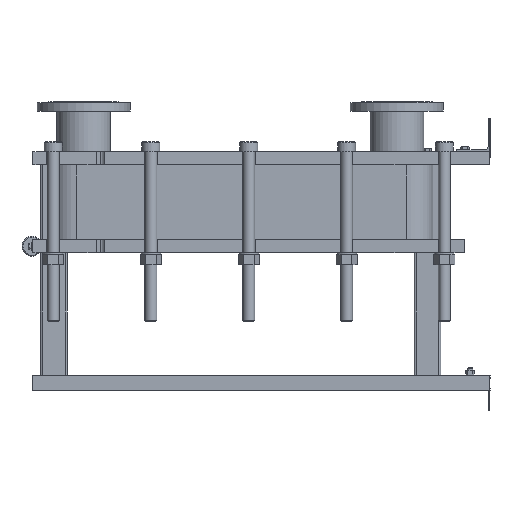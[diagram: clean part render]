
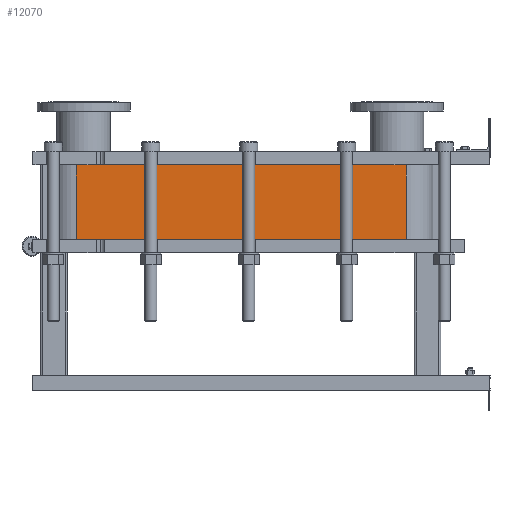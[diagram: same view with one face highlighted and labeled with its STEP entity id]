
A CAD part, left-side view. The second image highlights one B-rep face of the part: STEP entity #12070.
In plain terms, the highlighted planar face has unit normal (-1, 0, 0).
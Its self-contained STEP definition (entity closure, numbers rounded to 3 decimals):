
#1064=LINE('',#21140,#2164);
#1065=LINE('',#21144,#2165);
#1066=LINE('',#21146,#2166);
#1067=LINE('',#21147,#2167);
#2164=VECTOR('',#15790,10.);
#2165=VECTOR('',#15795,10.);
#2166=VECTOR('',#15796,10.);
#2167=VECTOR('',#15797,10.);
#3304=FACE_OUTER_BOUND('',#4091,.T.);
#4091=EDGE_LOOP('',(#9793,#9794,#9795,#9796));
#5677=VERTEX_POINT('',#21137);
#5678=VERTEX_POINT('',#21139);
#5679=VERTEX_POINT('',#21143);
#5680=VERTEX_POINT('',#21145);
#7118=EDGE_CURVE('',#5678,#5677,#1064,.T.);
#7120=EDGE_CURVE('',#5677,#5679,#1065,.T.);
#7121=EDGE_CURVE('',#5680,#5679,#1066,.T.);
#7122=EDGE_CURVE('',#5680,#5678,#1067,.T.);
#9793=ORIENTED_EDGE('',*,*,#7120,.T.);
#9794=ORIENTED_EDGE('',*,*,#7121,.F.);
#9795=ORIENTED_EDGE('',*,*,#7122,.T.);
#9796=ORIENTED_EDGE('',*,*,#7118,.T.);
#11441=PLANE('',#13191);
#12070=ADVANCED_FACE('',(#3304),#11441,.T.);
#13191=AXIS2_PLACEMENT_3D('',#21142,#15793,#15794);
#15790=DIRECTION('',(0.,0.,-1.));
#15793=DIRECTION('center_axis',(-1.,0.,0.));
#15794=DIRECTION('ref_axis',(0.,1.,0.));
#15795=DIRECTION('',(0.,-1.,0.));
#15796=DIRECTION('',(0.,0.,-1.));
#15797=DIRECTION('',(0.,1.,0.));
#21137=CARTESIAN_POINT('',(-248.152,1243.818,-224.25));
#21139=CARTESIAN_POINT('',(-248.152,1243.818,0.));
#21140=CARTESIAN_POINT('',(-248.152,1243.818,0.));
#21142=CARTESIAN_POINT('Origin',(-248.152,251.818,0.));
#21143=CARTESIAN_POINT('',(-248.152,251.818,-224.25));
#21144=CARTESIAN_POINT('',(-248.152,499.818,-224.25));
#21145=CARTESIAN_POINT('',(-248.152,251.818,0.));
#21146=CARTESIAN_POINT('',(-248.152,251.818,0.));
#21147=CARTESIAN_POINT('',(-248.152,251.818,0.));
